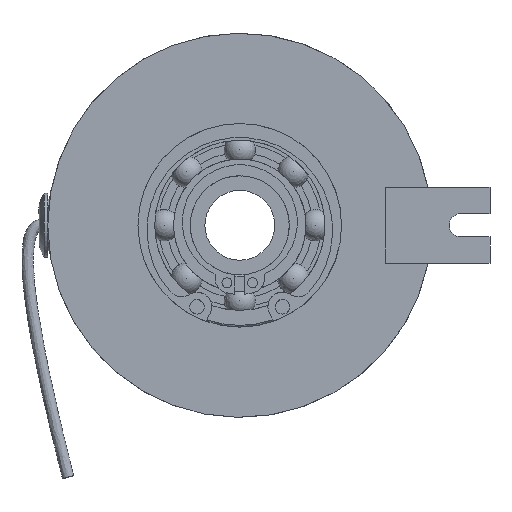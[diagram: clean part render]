
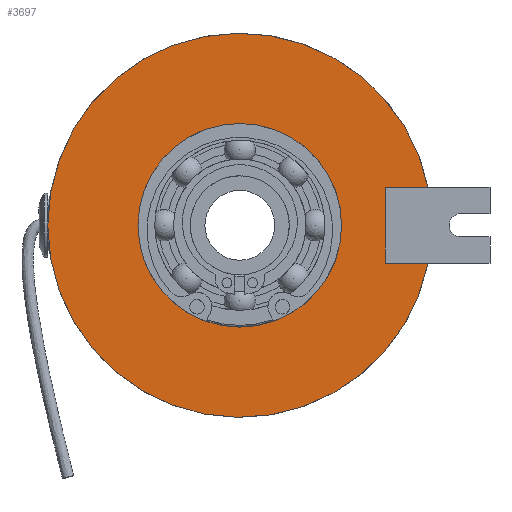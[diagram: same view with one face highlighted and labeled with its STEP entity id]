
A CAD part, left-side view. The second image highlights one B-rep face of the part: STEP entity #3697.
In plain terms, the highlighted planar face has unit normal (-1, 0, 0).
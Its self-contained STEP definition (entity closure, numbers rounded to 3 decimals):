
#150=LINE('',#5848,#247);
#153=LINE('',#5854,#250);
#156=LINE('',#5858,#253);
#247=VECTOR('',#4663,7.354);
#250=VECTOR('',#4668,13.);
#253=VECTOR('',#4673,7.354);
#619=FACE_BOUND('',#1002,.T.);
#730=FACE_OUTER_BOUND('',#1001,.T.);
#1001=EDGE_LOOP('',(#2637,#2638,#2639,#2640,#2641));
#1002=EDGE_LOOP('',(#2642));
#1302=CIRCLE('',#3989,33.);
#1303=CIRCLE('',#3990,33.);
#1304=CIRCLE('',#3991,17.5);
#1625=VERTEX_POINT('',#5806);
#1626=VERTEX_POINT('',#5807);
#1640=VERTEX_POINT('',#5847);
#1642=VERTEX_POINT('',#5853);
#1643=VERTEX_POINT('',#5861);
#1644=VERTEX_POINT('',#5864);
#2016=EDGE_CURVE('',#1640,#1625,#150,.T.);
#2019=EDGE_CURVE('',#1642,#1640,#153,.T.);
#2022=EDGE_CURVE('',#1626,#1642,#156,.T.);
#2023=EDGE_CURVE('',#1643,#1625,#1302,.T.);
#2024=EDGE_CURVE('',#1626,#1643,#1303,.T.);
#2025=EDGE_CURVE('',#1644,#1644,#1304,.T.);
#2637=ORIENTED_EDGE('',*,*,#2022,.T.);
#2638=ORIENTED_EDGE('',*,*,#2019,.T.);
#2639=ORIENTED_EDGE('',*,*,#2016,.T.);
#2640=ORIENTED_EDGE('',*,*,#2023,.F.);
#2641=ORIENTED_EDGE('',*,*,#2024,.F.);
#2642=ORIENTED_EDGE('',*,*,#2025,.T.);
#3589=PLANE('',#3988);
#3697=ADVANCED_FACE('',(#730,#619),#3589,.T.);
#3988=AXIS2_PLACEMENT_3D('',#5860,#4676,#4677);
#3989=AXIS2_PLACEMENT_3D('',#5862,#4678,#4679);
#3990=AXIS2_PLACEMENT_3D('',#5863,#4680,#4681);
#3991=AXIS2_PLACEMENT_3D('',#5865,#4682,#4683);
#4663=DIRECTION('',(0.,-1.,0.));
#4668=DIRECTION('',(0.,0.,1.));
#4673=DIRECTION('',(0.,1.,0.));
#4676=DIRECTION('center_axis',(-1.,0.,0.));
#4677=DIRECTION('ref_axis',(0.,0.,1.));
#4678=DIRECTION('center_axis',(1.,0.,0.));
#4679=DIRECTION('ref_axis',(0.,1.,0.));
#4680=DIRECTION('center_axis',(1.,0.,0.));
#4681=DIRECTION('ref_axis',(0.,1.,0.));
#4682=DIRECTION('center_axis',(1.,0.,0.));
#4683=DIRECTION('ref_axis',(0.,1.,0.));
#5806=CARTESIAN_POINT('',(-11.,-32.354,6.5));
#5807=CARTESIAN_POINT('',(-11.,-32.354,-6.5));
#5847=CARTESIAN_POINT('',(-11.,-25.,6.5));
#5848=CARTESIAN_POINT('',(-11.,0.125,6.5));
#5853=CARTESIAN_POINT('',(-11.,-25.,-6.5));
#5854=CARTESIAN_POINT('',(-11.,-25.,-3.25));
#5858=CARTESIAN_POINT('',(-11.,-8.875,-6.5));
#5860=CARTESIAN_POINT('Origin',(-11.,25.25,0.));
#5861=CARTESIAN_POINT('',(-11.,33.,0.));
#5862=CARTESIAN_POINT('Origin',(-11.,0.,0.));
#5863=CARTESIAN_POINT('Origin',(-11.,0.,0.));
#5864=CARTESIAN_POINT('',(-11.,17.5,0.));
#5865=CARTESIAN_POINT('Origin',(-11.,0.,0.));
